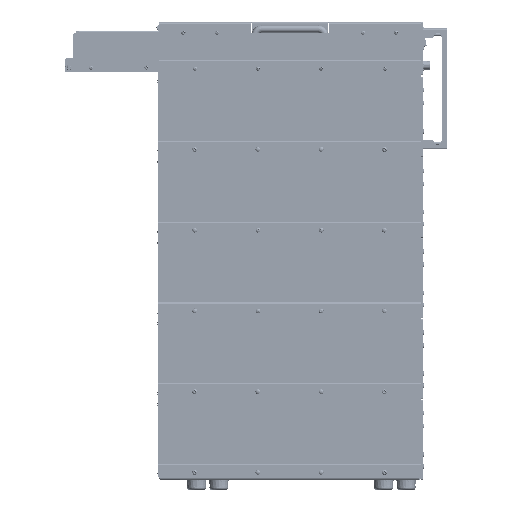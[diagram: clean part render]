
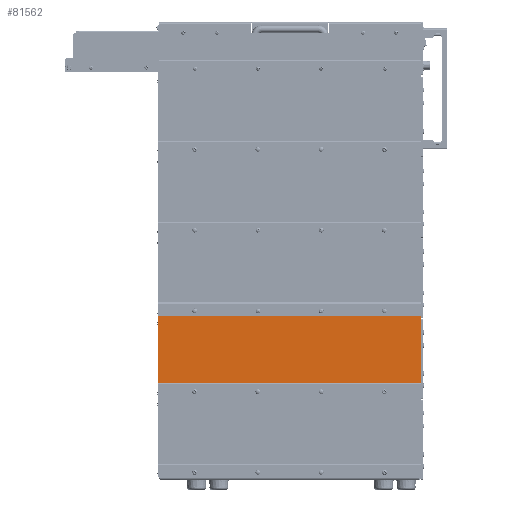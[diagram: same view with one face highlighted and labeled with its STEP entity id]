
A CAD part, left-side view. The second image highlights one B-rep face of the part: STEP entity #81562.
In plain terms, the highlighted planar face has unit normal (-1, 0, 0).
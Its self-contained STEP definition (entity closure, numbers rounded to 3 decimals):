
#81562=ADVANCED_FACE('',(#168034,#168035,#168036,#168037,#168038),#168039,.T.);
#168034=FACE_OUTER_BOUND('',#266002,.T.);
#168035=FACE_BOUND('',#266003,.T.);
#168036=FACE_BOUND('',#266004,.T.);
#168037=FACE_BOUND('',#266005,.T.);
#168038=FACE_BOUND('',#266006,.T.);
#168039=PLANE('',#266007);
#266002=EDGE_LOOP('',(#492114,#492115,#492116,#492117,#492118,#492119,#492120,#492121));
#266003=EDGE_LOOP('',(#492122,#492123));
#266004=EDGE_LOOP('',(#492124,#492125));
#266005=EDGE_LOOP('',(#492126,#492127));
#266006=EDGE_LOOP('',(#492128,#492129));
#266007=AXIS2_PLACEMENT_3D('',#492130,#492131,#492132);
#492114=ORIENTED_EDGE('',*,*,#596816,.F.);
#492115=ORIENTED_EDGE('',*,*,#596824,.T.);
#492116=ORIENTED_EDGE('',*,*,#596835,.F.);
#492117=ORIENTED_EDGE('',*,*,#596811,.F.);
#492118=ORIENTED_EDGE('',*,*,#596859,.T.);
#492119=ORIENTED_EDGE('',*,*,#596877,.F.);
#492120=ORIENTED_EDGE('',*,*,#596878,.F.);
#492121=ORIENTED_EDGE('',*,*,#596818,.F.);
#492122=ORIENTED_EDGE('',*,*,#596794,.T.);
#492123=ORIENTED_EDGE('',*,*,#596861,.T.);
#492124=ORIENTED_EDGE('',*,*,#596789,.T.);
#492125=ORIENTED_EDGE('',*,*,#596863,.T.);
#492126=ORIENTED_EDGE('',*,*,#596784,.T.);
#492127=ORIENTED_EDGE('',*,*,#596865,.T.);
#492128=ORIENTED_EDGE('',*,*,#596779,.T.);
#492129=ORIENTED_EDGE('',*,*,#596867,.T.);
#492130=CARTESIAN_POINT('',(546.234,604.229,-376.002));
#492131=DIRECTION('',(-1.0,0.,0.));
#492132=DIRECTION('',(0.,0.,1.0));
#596779=EDGE_CURVE('',#738499,#738496,#738500,.T.);
#596784=EDGE_CURVE('',#738508,#738505,#738509,.T.);
#596789=EDGE_CURVE('',#738517,#738514,#738518,.T.);
#596794=EDGE_CURVE('',#738526,#738523,#738527,.T.);
#596811=EDGE_CURVE('',#738555,#738551,#738557,.T.);
#596816=EDGE_CURVE('',#738564,#738560,#738566,.T.);
#596818=EDGE_CURVE('',#738560,#738568,#738569,.T.);
#596824=EDGE_CURVE('',#738564,#738576,#738578,.T.);
#596835=EDGE_CURVE('',#738551,#738576,#738591,.T.);
#596859=EDGE_CURVE('',#738555,#738621,#738623,.T.);
#596861=EDGE_CURVE('',#738523,#738526,#738625,.T.);
#596863=EDGE_CURVE('',#738514,#738517,#738627,.T.);
#596865=EDGE_CURVE('',#738505,#738508,#738629,.T.);
#596867=EDGE_CURVE('',#738496,#738499,#738631,.T.);
#596877=EDGE_CURVE('',#738641,#738621,#738642,.T.);
#596878=EDGE_CURVE('',#738568,#738641,#738643,.T.);
#738496=VERTEX_POINT('',#932671);
#738499=VERTEX_POINT('',#932675);
#738500=CIRCLE('',#932676,2.5);
#738505=VERTEX_POINT('',#932682);
#738508=VERTEX_POINT('',#932686);
#738509=CIRCLE('',#932687,2.5);
#738514=VERTEX_POINT('',#932693);
#738517=VERTEX_POINT('',#932697);
#738518=CIRCLE('',#932698,2.5);
#738523=VERTEX_POINT('',#932704);
#738526=VERTEX_POINT('',#932708);
#738527=CIRCLE('',#932709,2.5);
#738551=VERTEX_POINT('',#932738);
#738555=VERTEX_POINT('',#932743);
#738557=CIRCLE('',#932746,1.457);
#738560=VERTEX_POINT('',#932749);
#738564=VERTEX_POINT('',#932754);
#738566=CIRCLE('',#932757,2.538);
#738568=VERTEX_POINT('',#932759);
#738569=CIRCLE('',#932760,2.538);
#738576=VERTEX_POINT('',#932769);
#738578=LINE('',#932772,#932773);
#738591=CIRCLE('',#932789,1.457);
#738621=VERTEX_POINT('',#932828);
#738623=LINE('',#932831,#932832);
#738625=CIRCLE('',#932834,2.5);
#738627=CIRCLE('',#932836,2.5);
#738629=CIRCLE('',#932838,2.5);
#738631=CIRCLE('',#932840,2.5);
#738641=VERTEX_POINT('',#932850);
#738642=LINE('',#932851,#932852);
#738643=LINE('',#932853,#932854);
#932671=CARTESIAN_POINT('',(546.234,974.979,-320.577));
#932675=CARTESIAN_POINT('',(546.234,979.979,-320.577));
#932676=AXIS2_PLACEMENT_3D('',#1056601,#1056602,#1056603);
#932682=CARTESIAN_POINT('',(546.234,870.559,-320.577));
#932686=CARTESIAN_POINT('',(546.234,875.559,-320.577));
#932687=AXIS2_PLACEMENT_3D('',#1056609,#1056610,#1056611);
#932693=CARTESIAN_POINT('',(546.234,766.149,-320.577));
#932697=CARTESIAN_POINT('',(546.234,771.149,-320.577));
#932698=AXIS2_PLACEMENT_3D('',#1056617,#1056618,#1056619);
#932704=CARTESIAN_POINT('',(546.234,661.729,-320.577));
#932708=CARTESIAN_POINT('',(546.234,666.729,-320.577));
#932709=AXIS2_PLACEMENT_3D('',#1056625,#1056626,#1056627);
#932738=CARTESIAN_POINT('',(546.234,1037.053,-312.754));
#932743=CARTESIAN_POINT('',(546.234,1037.479,-313.784));
#932746=AXIS2_PLACEMENT_3D('',#1056653,#1056654,#1056655);
#932749=CARTESIAN_POINT('',(546.234,604.973,-313.071));
#932754=CARTESIAN_POINT('',(546.234,606.767,-312.327));
#932757=AXIS2_PLACEMENT_3D('',#1056661,#1056662,#1056663);
#932759=CARTESIAN_POINT('',(546.234,604.229,-314.865));
#932760=AXIS2_PLACEMENT_3D('',#1056664,#1056665,#1056666);
#932769=CARTESIAN_POINT('',(546.234,1036.023,-312.327));
#932772=CARTESIAN_POINT('',(546.234,604.229,-312.327));
#932773=VECTOR('',#1056673,1.0);
#932789=AXIS2_PLACEMENT_3D('',#1056692,#1056693,#1056694);
#932828=CARTESIAN_POINT('',(546.234,1037.479,-439.677));
#932831=CARTESIAN_POINT('',(546.234,1037.479,-312.327));
#932832=VECTOR('',#1056729,1.0);
#932834=AXIS2_PLACEMENT_3D('',#1056730,#1056731,#1056732);
#932836=AXIS2_PLACEMENT_3D('',#1056733,#1056734,#1056735);
#932838=AXIS2_PLACEMENT_3D('',#1056736,#1056737,#1056738);
#932840=AXIS2_PLACEMENT_3D('',#1056739,#1056740,#1056741);
#932850=CARTESIAN_POINT('',(546.234,604.229,-439.677));
#932851=CARTESIAN_POINT('',(546.234,604.229,-439.677));
#932852=VECTOR('',#1056754,1.0);
#932853=CARTESIAN_POINT('',(546.234,604.229,-312.327));
#932854=VECTOR('',#1056755,1.0);
#1056601=CARTESIAN_POINT('',(546.234,977.479,-320.577));
#1056602=DIRECTION('',(1.0,0.,0.));
#1056603=DIRECTION('',(0.,-1.0,0.));
#1056609=CARTESIAN_POINT('',(546.234,873.059,-320.577));
#1056610=DIRECTION('',(1.0,0.,0.));
#1056611=DIRECTION('',(0.,-1.0,0.));
#1056617=CARTESIAN_POINT('',(546.234,768.649,-320.577));
#1056618=DIRECTION('',(1.0,0.,0.));
#1056619=DIRECTION('',(0.,-1.0,0.));
#1056625=CARTESIAN_POINT('',(546.234,664.229,-320.577));
#1056626=DIRECTION('',(1.0,0.,0.));
#1056627=DIRECTION('',(0.,-1.0,0.));
#1056653=CARTESIAN_POINT('',(546.234,1036.023,-313.784));
#1056654=DIRECTION('',(1.0,0.,0.));
#1056655=DIRECTION('',(0.,0.707,0.707));
#1056661=CARTESIAN_POINT('',(546.234,606.767,-314.865));
#1056662=DIRECTION('',(1.0,0.,0.));
#1056663=DIRECTION('',(0.,-0.707,0.707));
#1056664=CARTESIAN_POINT('',(546.234,606.767,-314.865));
#1056665=DIRECTION('',(1.0,0.,0.));
#1056666=DIRECTION('',(0.,-0.707,0.707));
#1056673=DIRECTION('',(0.0,1.0,0.0));
#1056692=CARTESIAN_POINT('',(546.234,1036.023,-313.784));
#1056693=DIRECTION('',(1.0,0.,0.));
#1056694=DIRECTION('',(0.,0.707,0.707));
#1056729=DIRECTION('',(0.0,0.0,-1.0));
#1056730=CARTESIAN_POINT('',(546.234,664.229,-320.577));
#1056731=DIRECTION('',(1.0,0.,0.));
#1056732=DIRECTION('',(0.,-1.0,0.));
#1056733=CARTESIAN_POINT('',(546.234,768.649,-320.577));
#1056734=DIRECTION('',(1.0,0.,0.));
#1056735=DIRECTION('',(0.,-1.0,0.));
#1056736=CARTESIAN_POINT('',(546.234,873.059,-320.577));
#1056737=DIRECTION('',(1.0,0.,0.));
#1056738=DIRECTION('',(0.,-1.0,0.));
#1056739=CARTESIAN_POINT('',(546.234,977.479,-320.577));
#1056740=DIRECTION('',(1.0,0.,0.));
#1056741=DIRECTION('',(0.,-1.0,0.));
#1056754=DIRECTION('',(0.0,1.0,0.0));
#1056755=DIRECTION('',(0.0,0.0,-1.0));
